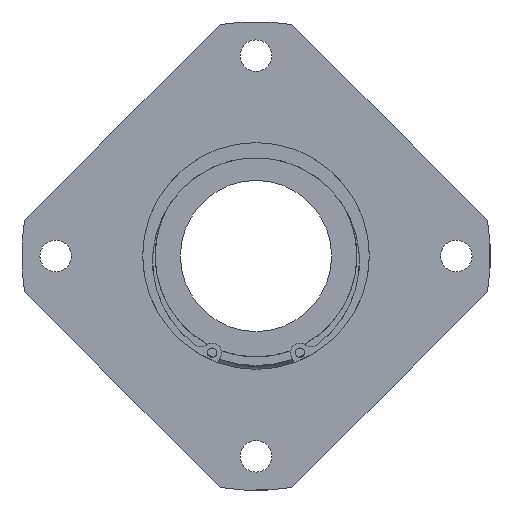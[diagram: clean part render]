
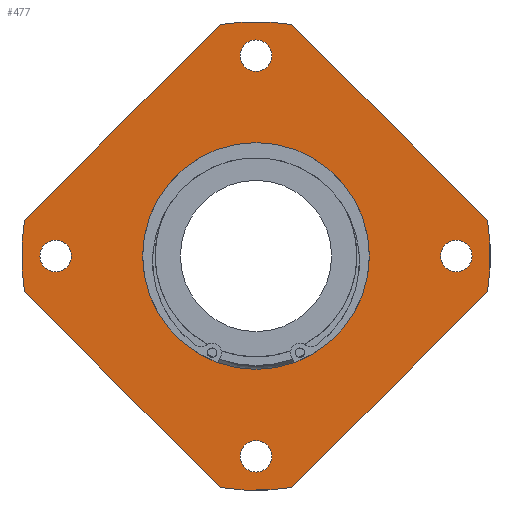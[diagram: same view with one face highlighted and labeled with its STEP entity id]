
A CAD part, left-side view. The second image highlights one B-rep face of the part: STEP entity #477.
In plain terms, the highlighted planar face has unit normal (-1, 0, 0).
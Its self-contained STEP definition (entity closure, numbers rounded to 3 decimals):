
#60=CARTESIAN_POINT('',(0.0,53.,-4.188));
#61=VERTEX_POINT('',#60);
#62=CARTESIAN_POINT('',(0.0,53.,0.));
#63=DIRECTION('',(1.0,0.0,0.0));
#64=DIRECTION('',(0.0,0.0,-1.0));
#65=AXIS2_PLACEMENT_3D('',#62,#63,#64);
#66=CIRCLE('',#65,4.188);
#67=EDGE_CURVE('',#61,#61,#66,.T.);
#88=CARTESIAN_POINT('',(0.0,-4.188,-53.));
#89=VERTEX_POINT('',#88);
#90=CARTESIAN_POINT('',(0.0,0.,-53.));
#91=DIRECTION('',(1.0,0.0,0.0));
#92=DIRECTION('',(0.0,-1.0,0.0));
#93=AXIS2_PLACEMENT_3D('',#90,#91,#92);
#94=CIRCLE('',#93,4.188);
#95=EDGE_CURVE('',#89,#89,#94,.T.);
#116=CARTESIAN_POINT('',(0.0,-53.,4.188));
#117=VERTEX_POINT('',#116);
#118=CARTESIAN_POINT('',(0.0,-53.,0.));
#119=DIRECTION('',(1.0,0.0,0.0));
#120=DIRECTION('',(0.0,0.0,1.0));
#121=AXIS2_PLACEMENT_3D('',#118,#119,#120);
#122=CIRCLE('',#121,4.188);
#123=EDGE_CURVE('',#117,#117,#122,.T.);
#144=CARTESIAN_POINT('',(0.0,4.188,53.));
#145=VERTEX_POINT('',#144);
#146=CARTESIAN_POINT('',(0.0,0.0,53.));
#147=DIRECTION('',(1.0,0.0,0.0));
#148=DIRECTION('',(0.0,1.0,0.0));
#149=AXIS2_PLACEMENT_3D('',#146,#147,#148);
#150=CIRCLE('',#149,4.188);
#151=EDGE_CURVE('',#145,#145,#150,.T.);
#171=CARTESIAN_POINT('',(0.0,-9.432,61.278));
#172=VERTEX_POINT('',#171);
#179=CARTESIAN_POINT('',(0.0,-61.278,9.432));
#180=VERTEX_POINT('',#179);
#181=CARTESIAN_POINT('',(0.0,-61.278,9.432));
#182=DIRECTION('',(0.0,0.707,0.707));
#183=VECTOR('',#182,73.321);
#184=LINE('',#181,#183);
#185=EDGE_CURVE('',#180,#172,#184,.T.);
#211=CARTESIAN_POINT('',(0.0,9.432,-61.278));
#212=VERTEX_POINT('',#211);
#219=CARTESIAN_POINT('',(0.0,61.278,-9.432));
#220=VERTEX_POINT('',#219);
#221=CARTESIAN_POINT('',(0.0,61.278,-9.432));
#222=DIRECTION('',(0.0,-0.707,-0.707));
#223=VECTOR('',#222,73.321);
#224=LINE('',#221,#223);
#225=EDGE_CURVE('',#220,#212,#224,.T.);
#251=CARTESIAN_POINT('',(0.0,61.278,9.432));
#252=VERTEX_POINT('',#251);
#259=CARTESIAN_POINT('',(0.0,9.432,61.278));
#260=VERTEX_POINT('',#259);
#261=CARTESIAN_POINT('',(0.0,9.432,61.278));
#262=DIRECTION('',(0.0,0.707,-0.707));
#263=VECTOR('',#262,73.321);
#264=LINE('',#261,#263);
#265=EDGE_CURVE('',#260,#252,#264,.T.);
#291=CARTESIAN_POINT('',(0.0,-61.278,-9.432));
#292=VERTEX_POINT('',#291);
#299=CARTESIAN_POINT('',(0.0,-9.432,-61.278));
#300=VERTEX_POINT('',#299);
#301=CARTESIAN_POINT('',(0.0,-9.432,-61.278));
#302=DIRECTION('',(0.0,-0.707,0.707));
#303=VECTOR('',#302,73.321);
#304=LINE('',#301,#303);
#305=EDGE_CURVE('',#300,#292,#304,.T.);
#322=CARTESIAN_POINT('',(0.0,0.0,0.0));
#323=DIRECTION('',(-1.0,0.0,0.0));
#324=DIRECTION('',(0.0,0.0,1.0));
#325=AXIS2_PLACEMENT_3D('',#322,#323,#324);
#326=CIRCLE('',#325,62.0);
#327=EDGE_CURVE('',#252,#220,#326,.T.);
#354=CARTESIAN_POINT('',(0.0,0.0,0.0));
#355=DIRECTION('',(-1.0,0.0,0.0));
#356=DIRECTION('',(0.0,0.0,1.0));
#357=AXIS2_PLACEMENT_3D('',#354,#355,#356);
#358=CIRCLE('',#357,62.0);
#359=EDGE_CURVE('',#212,#300,#358,.T.);
#370=CARTESIAN_POINT('',(0.0,0.0,0.0));
#371=DIRECTION('',(-1.0,0.0,0.0));
#372=DIRECTION('',(0.0,0.0,1.0));
#373=AXIS2_PLACEMENT_3D('',#370,#371,#372);
#374=CIRCLE('',#373,62.0);
#375=EDGE_CURVE('',#292,#180,#374,.T.);
#433=CARTESIAN_POINT('',(0.0,0.0,46.0));
#434=DIRECTION('',(-1.0,0.0,0.0));
#435=DIRECTION('',(0.0,0.0,1.0));
#436=AXIS2_PLACEMENT_3D('',#433,#434,#435);
#437=PLANE('',#436);
#438=ORIENTED_EDGE('',*,*,#185,.T.);
#439=CARTESIAN_POINT('',(0.0,0.0,0.0));
#440=DIRECTION('',(-1.0,0.0,0.0));
#441=DIRECTION('',(0.0,0.0,1.0));
#442=AXIS2_PLACEMENT_3D('',#439,#440,#441);
#443=CIRCLE('',#442,62.0);
#444=EDGE_CURVE('',#172,#260,#443,.T.);
#445=ORIENTED_EDGE('',*,*,#444,.T.);
#446=ORIENTED_EDGE('',*,*,#265,.T.);
#447=ORIENTED_EDGE('',*,*,#327,.T.);
#448=ORIENTED_EDGE('',*,*,#225,.T.);
#449=ORIENTED_EDGE('',*,*,#359,.T.);
#450=ORIENTED_EDGE('',*,*,#305,.T.);
#451=ORIENTED_EDGE('',*,*,#375,.T.);
#452=EDGE_LOOP('',(#438,#445,#446,#447,#448,#449,#450,#451));
#453=FACE_OUTER_BOUND('',#452,.T.);
#454=ORIENTED_EDGE('',*,*,#67,.T.);
#455=EDGE_LOOP('',(#454));
#456=FACE_BOUND('',#455,.T.);
#457=ORIENTED_EDGE('',*,*,#95,.T.);
#458=EDGE_LOOP('',(#457));
#459=FACE_BOUND('',#458,.T.);
#460=ORIENTED_EDGE('',*,*,#123,.T.);
#461=EDGE_LOOP('',(#460));
#462=FACE_BOUND('',#461,.T.);
#463=ORIENTED_EDGE('',*,*,#151,.T.);
#464=EDGE_LOOP('',(#463));
#465=FACE_BOUND('',#464,.T.);
#466=CARTESIAN_POINT('',(0.0,0.0,30.0));
#467=VERTEX_POINT('',#466);
#468=CARTESIAN_POINT('',(0.0,0.0,0.0));
#469=DIRECTION('',(-1.0,0.0,0.0));
#470=DIRECTION('',(0.0,0.0,1.0));
#471=AXIS2_PLACEMENT_3D('',#468,#469,#470);
#472=CIRCLE('',#471,30.0);
#473=EDGE_CURVE('',#467,#467,#472,.T.);
#474=ORIENTED_EDGE('',*,*,#473,.F.);
#475=EDGE_LOOP('',(#474));
#476=FACE_BOUND('',#475,.T.);
#477=ADVANCED_FACE('',(#453,#456,#459,#462,#465,#476),#437,.T.);
